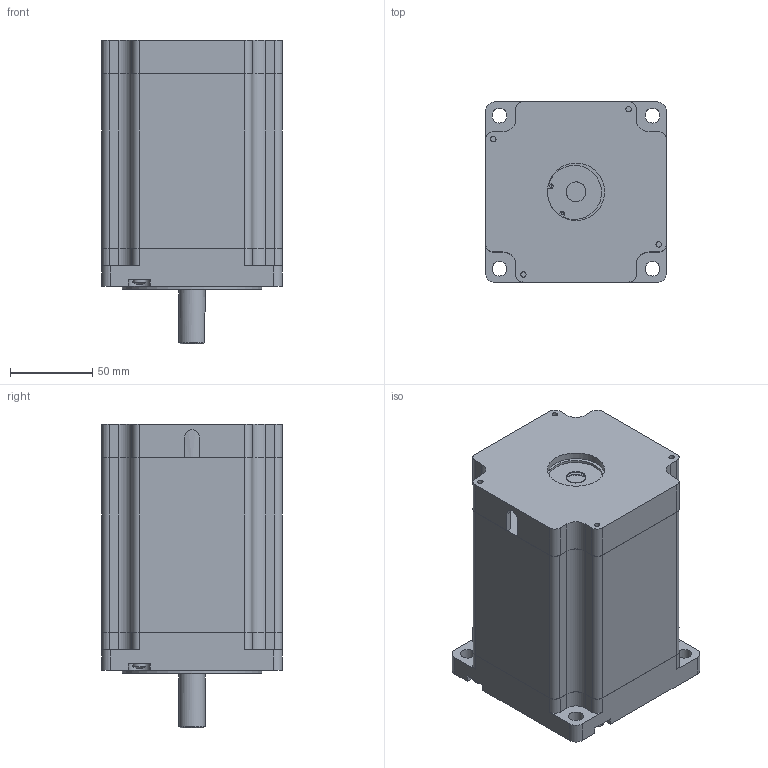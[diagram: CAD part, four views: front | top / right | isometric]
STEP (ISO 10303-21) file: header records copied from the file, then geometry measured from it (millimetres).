
FILE_DESCRIPTION (( 'STEP AP203' ), '1' );
FILE_NAME ('YK110HB150-06A.STEP', '2018-11-14T10:29:41', ( '' ), ( '' ), 'SwSTEP 2.0', 'SolidWorks 2014', '' );
FILE_SCHEMA (( 'CONFIG_CONTROL_DESIGN' ));
Length unit declared in the file: millimetre
Products named in the file (24): YK110HBXX綴粣創; YK110HBXX蹟佪; YK110HBXX粣杶; YK110HBXX綴裔; YK110HBXXヶ裔; YK110HBXX隅赽; YK110HBXX粣郋1; YK110HBXXヶ粣創; YK110HBXX后挡圈; YK110HBXX綴菜え; YK110HB150-06A
Assembly tree (13 placements, depth 2):
  YK110HBXX蹟佪
  YK110HBXX蹟佪
  YK110HBXX粣杶
  YK110HBXX綴裔
  YK110HBXXヶ裔
Bounding box: 110 x 110 x 185 mm (x, y, z)
Volume: 1159585.3 mm3; surface area: 220801.8 mm2
Topology: 13 solids, 13 shells, 1698 faces, 4685 edges, 3099 vertices
Faces by surface type: plane 1548, cylinder 121, bspline 21, cone 8
Full cylindrical faces by diameter (mm): 1.5 x2, 3.3 x4, 4 x4, 4.2 x4, 4.5 x8, 8 x4, 9 x4, 12 x1, 15 x2, 16 x1, 19 x2, 20 x2, 25.5 x1, 27 x2, 30.5 x2, 35 x4, 37 x1, 45 x2, 47 x2, 52 x2, 55.5 x1, 59 x2, 66.6 x3, 85 x1, 100.5 x1
Entity records: 54322 total; most frequent: CARTESIAN_POINT 10816, ORIENTED_EDGE 8828, DIRECTION 7838, EDGE_CURVE 4414, VECTOR 4130, LINE 4130, VERTEX_POINT 2982, AXIS2_PLACEMENT_3D 1854
